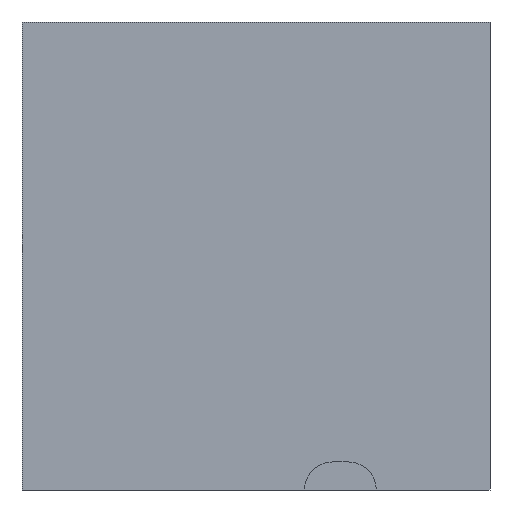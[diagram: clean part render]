
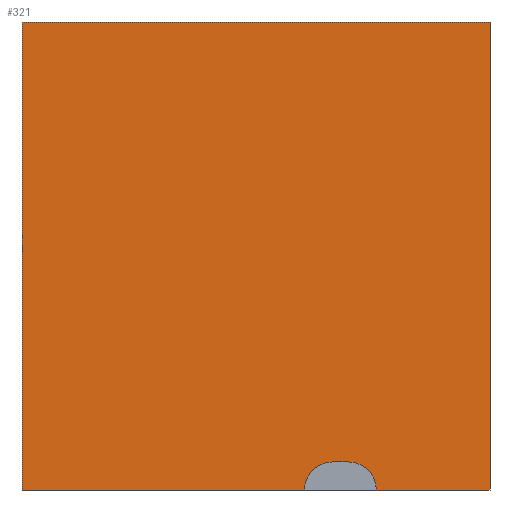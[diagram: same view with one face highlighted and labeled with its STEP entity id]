
A CAD part, front view. The second image highlights one B-rep face of the part: STEP entity #321.
In plain terms, the highlighted planar face has unit normal (0, -1, 0).
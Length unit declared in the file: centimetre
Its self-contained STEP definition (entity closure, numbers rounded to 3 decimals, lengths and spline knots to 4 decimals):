
#6 = CARTESIAN_POINT ( 'NONE',  ( 0., 0., 1000. ) ) ;
#56 = EDGE_LOOP ( 'NONE', ( #595, #110, #728, #381, #403, #145, #233, #494 ) ) ;
#98 = CARTESIAN_POINT ( 'NONE',  ( 663.6833, 0., 0. ) ) ;
#110 = ORIENTED_EDGE ( 'NONE', *, *, #464, .F. ) ;
#118 = DIRECTION ( 'NONE',  ( 0., 0., -1. ) ) ;
#130 = CARTESIAN_POINT ( 'NONE',  ( 1000., 0., 1000. ) ) ;
#145 = ORIENTED_EDGE ( 'NONE', *, *, #276, .F. ) ;
#153 = CARTESIAN_POINT ( 'NONE',  ( 663.6833, 0., 59.9571 ) ) ;
#180 = EDGE_CURVE ( 'NONE', #941, #711, #969, .T. ) ;
#218 = CIRCLE ( 'NONE', #773, 59.9571 ) ;
#232 = LINE ( 'NONE', #237, #692 ) ;
#233 = ORIENTED_EDGE ( 'NONE', *, *, #646, .F. ) ;
#237 = CARTESIAN_POINT ( 'NONE',  ( 0., 0., 0. ) ) ;
#263 = VERTEX_POINT ( 'NONE', #874 ) ;
#276 = EDGE_CURVE ( 'NONE', #263, #711, #886, .T. ) ;
#306 = DIRECTION ( 'NONE',  ( 0., 0., 1. ) ) ;
#314 = CARTESIAN_POINT ( 'NONE',  ( 0., 0., 1000. ) ) ;
#316 = DIRECTION ( 'NONE',  ( -1., 0., 0. ) ) ;
#321 = ADVANCED_FACE ( 'NONE', ( #371 ), #369, .F. ) ;
#332 = VERTEX_POINT ( 'NONE', #536 ) ;
#345 = AXIS2_PLACEMENT_3D ( 'NONE', #98, #546, #615 ) ;
#365 = LINE ( 'NONE', #676, #529 ) ;
#369 = PLANE ( 'NONE',  #449 ) ;
#370 = DIRECTION ( 'NONE',  ( 0., 0., -1. ) ) ;
#371 = FACE_OUTER_BOUND ( 'NONE', #56, .T. ) ;
#377 = CARTESIAN_POINT ( 'NONE',  ( 0., 0., 1000. ) ) ;
#381 = ORIENTED_EDGE ( 'NONE', *, *, #878, .F. ) ;
#400 = VECTOR ( 'NONE', #118, 100. ) ;
#403 = ORIENTED_EDGE ( 'NONE', *, *, #180, .T. ) ;
#408 = VERTEX_POINT ( 'NONE', #679 ) ;
#420 = DIRECTION ( 'NONE',  ( 0., 0., -1. ) ) ;
#435 = VERTEX_POINT ( 'NONE', #314 ) ;
#443 = VECTOR ( 'NONE', #370, 100. ) ;
#449 = AXIS2_PLACEMENT_3D ( 'NONE', #377, #908, #306 ) ;
#458 = LINE ( 'NONE', #698, #469 ) ;
#464 = EDGE_CURVE ( 'NONE', #715, #408, #730, .T. ) ;
#467 = DIRECTION ( 'NONE',  ( 1., 0., 0. ) ) ;
#469 = VECTOR ( 'NONE', #316, 100. ) ;
#489 = VERTEX_POINT ( 'NONE', #779 ) ;
#492 = CARTESIAN_POINT ( 'NONE',  ( 697.1299, 0., 0. ) ) ;
#494 = ORIENTED_EDGE ( 'NONE', *, *, #618, .T. ) ;
#528 = LINE ( 'NONE', #6, #443 ) ;
#529 = VECTOR ( 'NONE', #612, 100. ) ;
#534 = CARTESIAN_POINT ( 'NONE',  ( 1000., 0., 0. ) ) ;
#536 = CARTESIAN_POINT ( 'NONE',  ( 697.1299, 0., 59.9571 ) ) ;
#546 = DIRECTION ( 'NONE',  ( 0., -1., 0. ) ) ;
#595 = ORIENTED_EDGE ( 'NONE', *, *, #816, .T. ) ;
#612 = DIRECTION ( 'NONE',  ( 1., 0., 0. ) ) ;
#615 = DIRECTION ( 'NONE',  ( 0., 0., -1. ) ) ;
#618 = EDGE_CURVE ( 'NONE', #435, #489, #528, .T. ) ;
#641 = CARTESIAN_POINT ( 'NONE',  ( 757.087, 0., 0. ) ) ;
#646 = EDGE_CURVE ( 'NONE', #435, #263, #365, .T. ) ;
#652 = CARTESIAN_POINT ( 'NONE',  ( 0., 0., 0. ) ) ;
#676 = CARTESIAN_POINT ( 'NONE',  ( 0., 0., 1000. ) ) ;
#679 = CARTESIAN_POINT ( 'NONE',  ( 603.7262, 0., 0. ) ) ;
#692 = VECTOR ( 'NONE', #467, 100. ) ;
#698 = CARTESIAN_POINT ( 'NONE',  ( 697.1299, 0., 59.9571 ) ) ;
#709 = EDGE_CURVE ( 'NONE', #332, #715, #458, .T. ) ;
#711 = VERTEX_POINT ( 'NONE', #534 ) ;
#715 = VERTEX_POINT ( 'NONE', #153 ) ;
#728 = ORIENTED_EDGE ( 'NONE', *, *, #709, .F. ) ;
#730 = CIRCLE ( 'NONE', #345, 59.9571 ) ;
#749 = DIRECTION ( 'NONE',  ( 1., 0., 0. ) ) ;
#773 = AXIS2_PLACEMENT_3D ( 'NONE', #492, #804, #420 ) ;
#779 = CARTESIAN_POINT ( 'NONE',  ( 0., 0., 0. ) ) ;
#804 = DIRECTION ( 'NONE',  ( 0., -1., 0. ) ) ;
#816 = EDGE_CURVE ( 'NONE', #489, #408, #232, .T. ) ;
#874 = CARTESIAN_POINT ( 'NONE',  ( 1000., 0., 1000. ) ) ;
#878 = EDGE_CURVE ( 'NONE', #941, #332, #218, .T. ) ;
#886 = LINE ( 'NONE', #130, #400 ) ;
#905 = VECTOR ( 'NONE', #749, 100. ) ;
#908 = DIRECTION ( 'NONE',  ( 0., 1., 0. ) ) ;
#941 = VERTEX_POINT ( 'NONE', #641 ) ;
#969 = LINE ( 'NONE', #652, #905 ) ;
